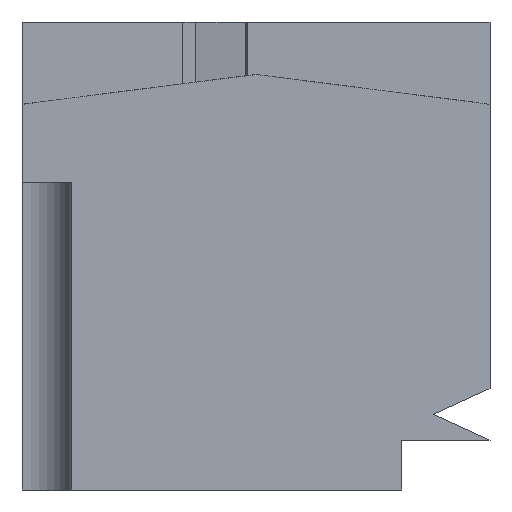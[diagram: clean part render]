
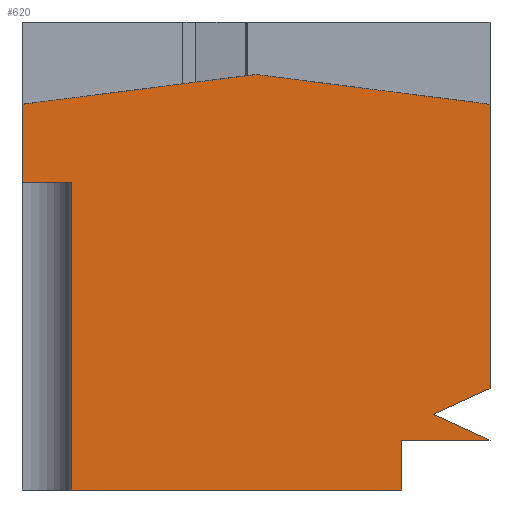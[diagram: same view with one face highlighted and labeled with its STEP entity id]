
A CAD part, front view. The second image highlights one B-rep face of the part: STEP entity #620.
In plain terms, the highlighted planar face has unit normal (0, -1, 0).
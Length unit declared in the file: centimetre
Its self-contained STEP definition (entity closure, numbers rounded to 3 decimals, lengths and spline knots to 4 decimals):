
#9 = ORIENTED_EDGE ( 'NONE', *, *, #1388, .T. ) ;
#13 = CARTESIAN_POINT ( 'NONE',  ( 1000., 0., 1000. ) ) ;
#29 = VECTOR ( 'NONE', #458, 100. ) ;
#30 = VECTOR ( 'NONE', #799, 100. ) ;
#42 = CARTESIAN_POINT ( 'NONE',  ( 106.6088, 0., 656.3064 ) ) ;
#92 = VERTEX_POINT ( 'NONE', #1278 ) ;
#97 = CARTESIAN_POINT ( 'NONE',  ( 811.8157, 0., 0. ) ) ;
#114 = EDGE_CURVE ( 'NONE', #930, #325, #1188, .T. ) ;
#127 = EDGE_CURVE ( 'NONE', #978, #392, #1387, .T. ) ;
#133 = AXIS2_PLACEMENT_3D ( 'NONE', #440, #1112, #456 ) ;
#162 = LINE ( 'NONE', #526, #995 ) ;
#200 = VERTEX_POINT ( 'NONE', #949 ) ;
#222 = CARTESIAN_POINT ( 'NONE',  ( 878.3744, 0., 161.7398 ) ) ;
#234 = CARTESIAN_POINT ( 'NONE',  ( 500., 0., 887.7638 ) ) ;
#237 = LINE ( 'NONE', #1123, #839 ) ;
#244 = LINE ( 'NONE', #572, #29 ) ;
#255 = DIRECTION ( 'NONE',  ( 0., 0., -1. ) ) ;
#260 = LINE ( 'NONE', #270, #746 ) ;
#262 = EDGE_CURVE ( 'NONE', #766, #686, #237, .T. ) ;
#270 = CARTESIAN_POINT ( 'NONE',  ( 1000., 0., 824.1768 ) ) ;
#273 = DIRECTION ( 'NONE',  ( 0., 0., -1. ) ) ;
#279 = DIRECTION ( 'NONE',  ( 0., 0., 1. ) ) ;
#284 = CARTESIAN_POINT ( 'NONE',  ( 1000., 0., 824.1768 ) ) ;
#325 = VERTEX_POINT ( 'NONE', #1366 ) ;
#392 = VERTEX_POINT ( 'NONE', #968 ) ;
#402 = ORIENTED_EDGE ( 'NONE', *, *, #1197, .T. ) ;
#422 = VERTEX_POINT ( 'NONE', #1308 ) ;
#431 = PLANE ( 'NONE',  #133 ) ;
#440 = CARTESIAN_POINT ( 'NONE',  ( 0., 0., 1000. ) ) ;
#456 = DIRECTION ( 'NONE',  ( 0., 0., 1. ) ) ;
#458 = DIRECTION ( 'NONE',  ( 0., 0., -1. ) ) ;
#465 = ORIENTED_EDGE ( 'NONE', *, *, #114, .T. ) ;
#483 = CARTESIAN_POINT ( 'NONE',  ( 0., 0., 0. ) ) ;
#524 = CARTESIAN_POINT ( 'NONE',  ( 0., 0., 824.1768 ) ) ;
#526 = CARTESIAN_POINT ( 'NONE',  ( 811.8157, 0., 106.6883 ) ) ;
#572 = CARTESIAN_POINT ( 'NONE',  ( 106.6088, 0., 656.3064 ) ) ;
#584 = LINE ( 'NONE', #1274, #30 ) ;
#599 = DIRECTION ( 'NONE',  ( 1., 0., 0. ) ) ;
#602 = LINE ( 'NONE', #615, #1115 ) ;
#615 = CARTESIAN_POINT ( 'NONE',  ( 0., 0., 656.3064 ) ) ;
#616 = DIRECTION ( 'NONE',  ( 1., 0., 0. ) ) ;
#620 = ADVANCED_FACE ( 'NONE', ( #648 ), #431, .F. ) ;
#626 = ORIENTED_EDGE ( 'NONE', *, *, #262, .T. ) ;
#648 = FACE_OUTER_BOUND ( 'NONE', #1243, .T. ) ;
#650 = ORIENTED_EDGE ( 'NONE', *, *, #1249, .T. ) ;
#664 = CARTESIAN_POINT ( 'NONE',  ( 1000., 0., 106.6883 ) ) ;
#672 = ORIENTED_EDGE ( 'NONE', *, *, #848, .F. ) ;
#686 = VERTEX_POINT ( 'NONE', #222 ) ;
#707 = DIRECTION ( 'NONE',  ( 0.992, 0., -0.126 ) ) ;
#729 = VECTOR ( 'NONE', #599, 100. ) ;
#746 = VECTOR ( 'NONE', #707, 100. ) ;
#766 = VERTEX_POINT ( 'NONE', #664 ) ;
#799 = DIRECTION ( 'NONE',  ( 0.911, 0., 0.412 ) ) ;
#813 = VECTOR ( 'NONE', #273, 100. ) ;
#831 = EDGE_CURVE ( 'NONE', #1003, #930, #244, .T. ) ;
#839 = VECTOR ( 'NONE', #904, 100. ) ;
#848 = EDGE_CURVE ( 'NONE', #1126, #200, #1013, .T. ) ;
#867 = ORIENTED_EDGE ( 'NONE', *, *, #1317, .T. ) ;
#904 = DIRECTION ( 'NONE',  ( -0.911, 0., 0.412 ) ) ;
#911 = EDGE_CURVE ( 'NONE', #1003, #92, #602, .T. ) ;
#930 = VERTEX_POINT ( 'NONE', #1402 ) ;
#949 = CARTESIAN_POINT ( 'NONE',  ( 500., 0., 887.7638 ) ) ;
#968 = CARTESIAN_POINT ( 'NONE',  ( 1000., 0., 216.7913 ) ) ;
#978 = VERTEX_POINT ( 'NONE', #284 ) ;
#995 = VECTOR ( 'NONE', #616, 100. ) ;
#1003 = VERTEX_POINT ( 'NONE', #42 ) ;
#1013 = LINE ( 'NONE', #234, #1066 ) ;
#1015 = EDGE_CURVE ( 'NONE', #200, #978, #260, .T. ) ;
#1021 = VECTOR ( 'NONE', #279, 100. ) ;
#1034 = LINE ( 'NONE', #1058, #1116 ) ;
#1058 = CARTESIAN_POINT ( 'NONE',  ( 0., 0., 1000. ) ) ;
#1066 = VECTOR ( 'NONE', #1459, 100. ) ;
#1112 = DIRECTION ( 'NONE',  ( 0., 1., 0. ) ) ;
#1114 = ORIENTED_EDGE ( 'NONE', *, *, #127, .F. ) ;
#1115 = VECTOR ( 'NONE', #1397, 100. ) ;
#1116 = VECTOR ( 'NONE', #255, 100. ) ;
#1123 = CARTESIAN_POINT ( 'NONE',  ( 1000., 0., 106.6883 ) ) ;
#1126 = VERTEX_POINT ( 'NONE', #524 ) ;
#1129 = ORIENTED_EDGE ( 'NONE', *, *, #1015, .F. ) ;
#1188 = LINE ( 'NONE', #483, #729 ) ;
#1192 = LINE ( 'NONE', #97, #1021 ) ;
#1197 = EDGE_CURVE ( 'NONE', #422, #766, #162, .T. ) ;
#1243 = EDGE_LOOP ( 'NONE', ( #1114, #1129, #672, #9, #1356, #1426, #465, #650, #402, #626, #867 ) ) ;
#1249 = EDGE_CURVE ( 'NONE', #325, #422, #1192, .T. ) ;
#1274 = CARTESIAN_POINT ( 'NONE',  ( 878.3744, 0., 161.7398 ) ) ;
#1278 = CARTESIAN_POINT ( 'NONE',  ( 0., 0., 656.3064 ) ) ;
#1308 = CARTESIAN_POINT ( 'NONE',  ( 811.8157, 0., 106.6883 ) ) ;
#1317 = EDGE_CURVE ( 'NONE', #686, #392, #584, .T. ) ;
#1356 = ORIENTED_EDGE ( 'NONE', *, *, #911, .F. ) ;
#1366 = CARTESIAN_POINT ( 'NONE',  ( 811.8157, 0., 0. ) ) ;
#1387 = LINE ( 'NONE', #13, #813 ) ;
#1388 = EDGE_CURVE ( 'NONE', #1126, #92, #1034, .T. ) ;
#1397 = DIRECTION ( 'NONE',  ( -1., 0., 0. ) ) ;
#1402 = CARTESIAN_POINT ( 'NONE',  ( 106.6088, 0., 0. ) ) ;
#1426 = ORIENTED_EDGE ( 'NONE', *, *, #831, .T. ) ;
#1459 = DIRECTION ( 'NONE',  ( 0.992, 0., 0.126 ) ) ;
